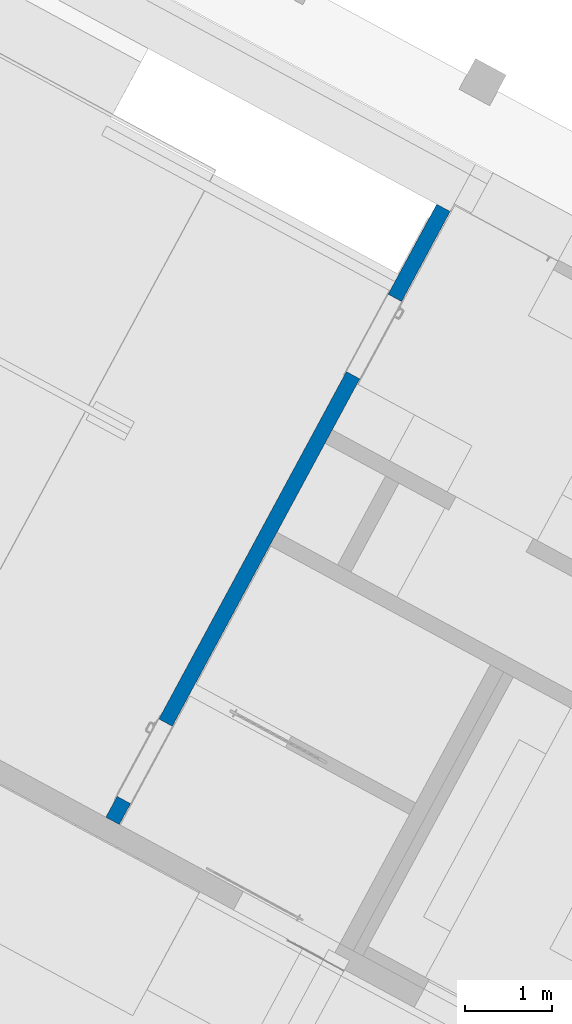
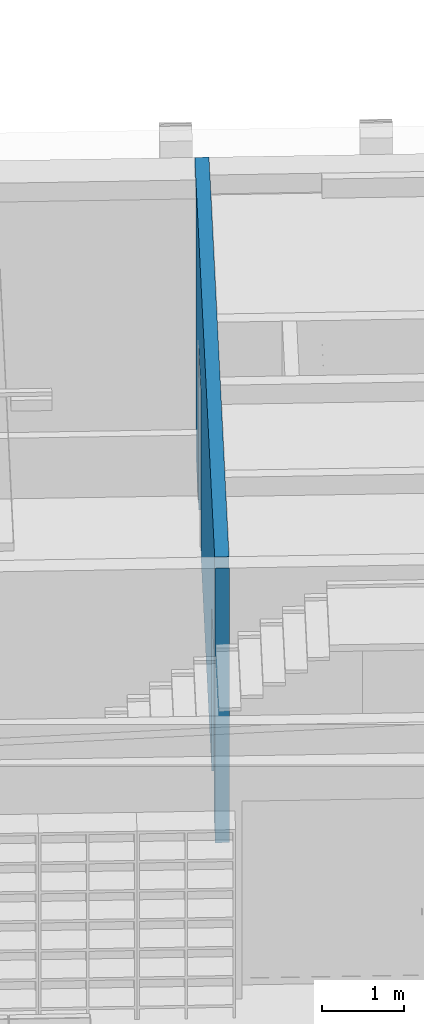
# One storey, part 18 of 52: 1 wall, 2 openings.
"""IFC2X3 building model written with IfcOpenShell, lengths in metres."""

import ifcopenshell
import ifcopenshell.guid

model = None  # the IFC model being written
_history = None  # IfcOwnerHistory: only IFC2X3 demands one
_inside = {}  # id of a spatial element -> (the spatial element, [elements in it])
_under = {}  # id of a project, library or spatial element -> (it, [spatial elements below it])
_declared = {}  # id of a project -> (the project, [libraries it declares])
_typed = {}  # id of a type object -> (the type object, [elements of that type])
_made_of = {}  # id of a material, layer set ... -> (it, [elements and type objects made of it])


def new_model(schema):
    """Start an empty IFC model of exactly this schema.

    Asked for "IFC4X3", IfcOpenShell would pick the latest addendum, in which some entities
    have other attributes; the version numbers below select the first issue.
    IFC2X3 requires an IfcOwnerHistory on every rooted entity: one is made here for all.
    """
    global model, _history
    if schema == "IFC4X3":
        model = ifcopenshell.file(schema_version=(4, 3, 0, 0))
    else:
        model = ifcopenshell.file(schema=schema)
    _inside.clear()
    _under.clear()
    _declared.clear()
    _typed.clear()
    _made_of.clear()
    _history = None
    if model.schema == "IFC2X3":
        org = make("IfcOrganization", Name="unknown")
        user = make(
            "IfcPersonAndOrganization",
            ThePerson=make("IfcPerson", FamilyName="unknown"),
            TheOrganization=org,
        )
        app = make(
            "IfcApplication",
            ApplicationDeveloper=org,
            Version="unknown",
            ApplicationFullName="unknown",
            ApplicationIdentifier="unknown",
        )
        _history = make(
            "IfcOwnerHistory",
            OwningUser=user,
            OwningApplication=app,
            ChangeAction="ADDED",
            CreationDate=0,
        )
    return model


def make(cls, **values):
    """One entity of the class cls with the attributes given. An attribute that is None is left unset."""
    return model.create_entity(
        cls, **{name: value for name, value in values.items() if value is not None}
    )


def entity(cls, *values):
    """Any entity or typed value of the class cls, its attributes in the order of the schema. None: left unset."""
    e = model.create_entity(cls)
    for i, value in enumerate(values):
        if value is not None:
            e[i] = value
    return e


def rooted(cls, **values):
    """An entity with a GlobalId (a new one), such as an element, a storey or a relation."""
    return make(cls, GlobalId=ifcopenshell.guid.new(), OwnerHistory=_history, **values)


def si_unit(unit_type, name, prefix=None):
    """IfcSIUnit, for example si_unit("LENGTHUNIT", "METRE", prefix="MILLI")."""
    return make("IfcSIUnit", UnitType=unit_type, Prefix=prefix, Name=name)


def converted_unit(unit_type, name, factor, base, dimensions=None, offset=None):
    """IfcConversionBasedUnit, such as the inch: factor (a typed value) times the base unit."""
    return make(
        "IfcConversionBasedUnit"
        if offset is None
        else "IfcConversionBasedUnitWithOffset",
        ConversionOffset=offset,
        Dimensions=None
        if dimensions is None
        else entity("IfcDimensionalExponents", *dimensions),
        UnitType=unit_type,
        Name=name,
        ConversionFactor=make(
            "IfcMeasureWithUnit", ValueComponent=factor, UnitComponent=base
        ),
    )


def derived_unit(unit_type, elements):
    """IfcDerivedUnit: a product of units, each with its exponent."""
    return make(
        "IfcDerivedUnit",
        Elements=[
            make("IfcDerivedUnitElement", Unit=unit, Exponent=power)
            for unit, power in elements
        ],
        UnitType=unit_type,
    )


def money_unit(currency):
    """IfcMonetaryUnit."""
    return make("IfcMonetaryUnit", Currency=currency)


def assignment(units):
    """IfcUnitAssignment: the units of a project."""
    return None if units is None else make("IfcUnitAssignment", Units=units)


def point(xyz):
    """IfcCartesianPoint."""
    return None if xyz is None else make("IfcCartesianPoint", Coordinates=xyz)


def direction(xyz):
    """IfcDirection."""
    return None if xyz is None else make("IfcDirection", DirectionRatios=xyz)


def frame(location, z_axis=None, x_axis=None):
    """IfcAxis2Placement3D, a coordinate frame: its origin and axes. An axis left out is left unset."""
    return make(
        "IfcAxis2Placement3D",
        Location=point(location),
        Axis=direction(z_axis),
        RefDirection=direction(x_axis),
    )


def frame_2d(location, x_axis=None):
    """IfcAxis2Placement2D, a coordinate frame in the plane: its origin and x axis."""
    return make(
        "IfcAxis2Placement2D", Location=point(location), RefDirection=direction(x_axis)
    )


def origin_with_axes():
    """The frame at (0, 0, 0) with the z axis (0, 0, 1) and the x axis (1, 0, 0) written out."""
    return frame((0.0, 0.0, 0.0), z_axis=(0.0, 0.0, 1.0), x_axis=(1.0, 0.0, 0.0))


def origin_2d_with_axis():
    """The frame at (0, 0) in the plane with the x axis (1, 0) written out."""
    return frame_2d((0.0, 0.0), x_axis=(1.0, 0.0))


def place(relative_to, where):
    """IfcLocalPlacement: puts the frame where relative to a parent placement (None: the world)."""
    return make(
        "IfcLocalPlacement", PlacementRelTo=relative_to, RelativePlacement=where
    )


def context(
    kind, dimensions, precision=None, world=None, true_north=None, identifier=None
):
    """IfcGeometricRepresentationContext, for example the 3D "Model" context."""
    return make(
        "IfcGeometricRepresentationContext",
        ContextIdentifier=identifier,
        ContextType=kind,
        CoordinateSpaceDimension=dimensions,
        Precision=precision,
        WorldCoordinateSystem=world,
        TrueNorth=true_north,
    )


def subcontext(parent, identifier, kind, view, scale=None):
    """IfcGeometricRepresentationSubContext, for example "Body" below "Model"."""
    return make(
        "IfcGeometricRepresentationSubContext",
        ContextIdentifier=identifier,
        ContextType=kind,
        ParentContext=parent,
        TargetScale=scale,
        TargetView=view,
    )


def project(units=None, contexts=None):
    """IfcProject with its units and contexts."""
    return rooted(
        "IfcProject",
        Name="project",
        RepresentationContexts=contexts,
        UnitsInContext=assignment(units),
    )


def spatial(cls, under=None, at=None, **own):
    """A site, building, storey or space (cls), placed at a placement, below another one or the project."""
    s = rooted(cls, ObjectPlacement=at, **own)
    if under is not None:
        _under.setdefault(under.id(), (under, []))[1].append(s)
    return s


def profile(cls, at=None, kind="AREA", **sizes):
    """A parametric profile (cls). Its sizes go by their IFC names, for example OverallWidth=200.0."""
    return make(cls, ProfileType=kind, Position=at, **sizes)


def rectangle(**sizes):
    """IfcRectangleProfileDef."""
    return profile("IfcRectangleProfileDef", **sizes)


def extrude(swept, where, along, depth):
    """IfcExtrudedAreaSolid: the profile swept, set in the frame where, extruded along a direction by depth."""
    return make(
        "IfcExtrudedAreaSolid",
        SweptArea=swept,
        Position=where,
        ExtrudedDirection=direction(along),
        Depth=depth,
    )


def faces_of(points, faces, orient=None, outer=None):
    """IfcFace entities. A face is a list of loops; a loop is a list of indices into points, from 0.

    orient and outer hold one flag for each loop. By default every Orientation is true, the
    first loop of a face is its IfcFaceOuterBound and the others are IfcFaceBound.
    """
    made = []
    for i, loops in enumerate(faces):
        bounds = []
        for j, loop in enumerate(loops):
            is_outer = j == 0 if outer is None else outer[i][j]
            bounds.append(
                make(
                    "IfcFaceOuterBound" if is_outer else "IfcFaceBound",
                    Bound=make("IfcPolyLoop", Polygon=[points[k] for k in loop]),
                    Orientation=True if orient is None else orient[i][j],
                )
            )
        made.append(make("IfcFace", Bounds=bounds))
    return made


def faceted_brep(points, faces, orient=None, outer=None, voids=None):
    """IfcFacetedBrep: a solid bounded by flat faces; with voids (closed shells), ...WithVoids."""
    shared = [point(p) for p in points]
    hull = make("IfcClosedShell", CfsFaces=faces_of(shared, faces, orient, outer))
    if voids is None:
        return make("IfcFacetedBrep", Outer=hull)
    return make(
        "IfcFacetedBrepWithVoids",
        Outer=hull,
        Voids=[
            make(cls, CfsFaces=faces_of(shared, fs, o, b)) for cls, fs, o, b in voids
        ],
    )


def shape(context_of_items, identifier, shape_type, items):
    """IfcShapeRepresentation: the items that make up one representation, for example the "Body"."""
    return make(
        "IfcShapeRepresentation",
        ContextOfItems=context_of_items,
        RepresentationIdentifier=identifier,
        RepresentationType=shape_type,
        Items=items,
    )


def material(Name=None, Category=None):
    """IfcMaterial."""
    return make("IfcMaterial", Name=Name, Category=Category)


def made_of(thing, what):
    """Note that an element or type object is made of a material, layer set ...; save() writes the relation."""
    if what is not None:
        _made_of.setdefault(what.id(), (what, []))[1].append(thing)
    return thing


def type_object(cls, material=None, **own):
    """A type object (cls), such as IfcWallType, which elements share."""
    return made_of(rooted(cls, **own), material)


def element(
    cls,
    number,
    at=None,
    inside=None,
    cuts=None,
    type_object=None,
    material=None,
    context=None,
    identifier="Body",
    shape_type=None,
    held_by="IfcProductDefinitionShape",
    body=None,
    shapes=None,
    **own,
):
    """One element of the class cls, such as IfcWall. Its Tag is "e" and its number.

    at: its placement. inside: the storey or other place that contains it. cuts: it is an
    opening in that element (IfcRelVoidsElement). A single representation is given by context,
    identifier, shape_type and body (its items); several are given by shapes. held_by: the class
    of the entity that holds the representations. save() writes the other relations.
    """
    e = rooted(cls, Tag="e%d" % number, ObjectPlacement=at, **own)
    if body is not None:
        shapes = [shape(context, identifier, shape_type, body)]
    if shapes is not None:
        e.Representation = make(held_by, Representations=shapes)
    if inside is not None:
        _inside.setdefault(inside.id(), (inside, []))[1].append(e)
    if cuts is not None:
        rooted(
            "IfcRelVoidsElement", RelatingBuildingElement=cuts, RelatedOpeningElement=e
        )
    if type_object is not None:
        _typed.setdefault(type_object.id(), (type_object, []))[1].append(e)
    return made_of(e, material)


def aggregate(whole, parts):
    """IfcRelAggregates: a whole, such as a stair, and the parts it consists of."""
    return rooted("IfcRelAggregates", RelatingObject=whole, RelatedObjects=parts)


def save(model, path):
    """Write the relations noted so far, then the file.

    IfcRelAggregates (storeys below a building ...), IfcRelContainedInSpatialStructure (elements
    in a storey), IfcRelDefinesByType, IfcRelAssociatesMaterial and IfcRelDeclares: one each for
    every whole, place, type object, material and project.
    """
    for whole, parts in _under.values():
        aggregate(whole, parts)
    for where, things in _inside.values():
        rooted(
            "IfcRelContainedInSpatialStructure",
            RelatedElements=things,
            RelatingStructure=where,
        )
    for kind, things in _typed.values():
        rooted("IfcRelDefinesByType", RelatedObjects=things, RelatingType=kind)
    for what, things in _made_of.values():
        rooted("IfcRelAssociatesMaterial", RelatedObjects=things, RelatingMaterial=what)
    for by, libraries in _declared.values():
        rooted("IfcRelDeclares", RelatingContext=by, RelatedDefinitions=libraries)
    model.write(path)


model = new_model("IFC2X3")

# Units and contexts
model_context = context("Model", 3, precision=1e-05, world=origin_with_axes(), true_north=direction((0.0, 1.0)))
body_context = subcontext(model_context, "Body", "Model", "MODEL_VIEW")
ifc_project = project(units=[si_unit("LENGTHUNIT", "METRE"), si_unit("AREAUNIT", "SQUARE_METRE"), si_unit("VOLUMEUNIT", "CUBIC_METRE"), converted_unit("PLANEANGLEUNIT", "DEGREE", entity("IfcPlaneAngleMeasure", 0.0174532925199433), si_unit("PLANEANGLEUNIT", "RADIAN"), dimensions=[0, 0, 0, 0, 0, 0, 0]), money_unit("EUR"), converted_unit("TIMEUNIT", "Year", entity("IfcTimeMeasure", 31556926.0), si_unit("TIMEUNIT", "SECOND"), dimensions=[0, 0, 1, 0, 0, 0, 0]), si_unit("MASSUNIT", "GRAM", prefix="KILO"), si_unit("THERMODYNAMICTEMPERATUREUNIT", "DEGREE_CELSIUS"), si_unit("LUMINOUSINTENSITYUNIT", "LUMEN"), si_unit("ENERGYUNIT", "JOULE", prefix="MEGA"), derived_unit("THERMALCONDUCTANCEUNIT", [(si_unit("POWERUNIT", "WATT"), 1), (si_unit("LENGTHUNIT", "METRE"), -1), (si_unit("THERMODYNAMICTEMPERATUREUNIT", "KELVIN"), -1)]), derived_unit("SPECIFICHEATCAPACITYUNIT", [(si_unit("ENERGYUNIT", "JOULE"), 1), (si_unit("MASSUNIT", "GRAM", prefix="KILO"), -1), (si_unit("THERMODYNAMICTEMPERATUREUNIT", "KELVIN"), -1)]), derived_unit("MASSDENSITYUNIT", [(si_unit("MASSUNIT", "GRAM", prefix="KILO"), 1), (si_unit("VOLUMEUNIT", "CUBIC_METRE"), -1)])], contexts=[model_context])

# Site, building, storey
site_placement = place(None, frame((-3.949935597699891, 1.740105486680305, 0.0), z_axis=(0.0, 0.0, 1.0), x_axis=(0.8799804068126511, -0.475009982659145, 0.0)))
site = spatial("IfcSite", under=ifc_project, at=site_placement, Name="Gelände", CompositionType="ELEMENT")
building_placement = place(site_placement, origin_with_axes())
building = spatial("IfcBuilding", under=site, at=building_placement, Name="Gebäude", CompositionType="ELEMENT")
storey_placement = place(building_placement, origin_with_axes())
storey = spatial("IfcBuildingStorey", under=building, at=storey_placement, Name="Erdgeschoss", CompositionType="ELEMENT", Elevation=0.0)

# Wall, openings
ifc_material = material(Name="_SIWH - MW Kalksandstein")
wall_type = type_object("IfcWallType", Name="_SIWH - WI | KS 17,5 | 17,5cm 175", PredefinedType="NOTDEFINED")
wall_placement = place(storey_placement, frame((10.53739368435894, 19.20029480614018, -0.18), z_axis=(0.0, 0.0, 1.0), x_axis=(4.404635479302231e-06, -0.9999999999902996, 0.0)))
wall = element("IfcWall", 1, at=wall_placement, inside=storey, type_object=wall_type, material=ifc_material, Name="I-Wand001", context=body_context, shape_type="Brep", body=[
    faceted_brep([(2.484993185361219, 0.0, 0.18), (2.484993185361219, 0.0, 2.44), (1.474993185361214, 0.0, 2.44), (1.474993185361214, 0.0, 0.18), (1.47499318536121, 0.0, 0.0), (0.300000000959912, 0.0, 0.0), (0.300000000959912, 0.0, 3.800000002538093), (0.2000000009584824, 0.0, 3.800000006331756), (0.2000000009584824, 0.0, 4.080000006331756), (8.302472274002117, 0.0, 4.080000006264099), (8.302472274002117, 0.0, 0.0), (8.029937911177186, 0.0, 0.0), (8.02993791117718, 0.0, 0.18), (8.02993791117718, 0.0, 2.44), (7.019937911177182, 0.0, 2.44), (7.019937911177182, 0.0, 0.18), (7.019937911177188, 0.0, 0.0), (2.484993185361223, 0.0, 0.0), (2.484993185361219, -0.1749999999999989, 0.18), (2.484993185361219, -0.1750000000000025, 2.44), (1.474993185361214, -0.1750000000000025, 2.44), (1.474993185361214, -0.1749999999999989, 0.18), (1.47499318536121, -0.1749999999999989, 0.0), (0.2999990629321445, -0.1749999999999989, 0.0), (0.2999990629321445, -0.1749999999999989, 3.800000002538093), (-0.3150000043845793, -0.0009954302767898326, 3.800000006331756), (0.199999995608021, -0.0009981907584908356, 3.800000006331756), (-0.3150009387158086, -0.1749999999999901, 3.800000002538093), (0.199999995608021, -0.0009981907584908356, 4.080000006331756), (-0.1800000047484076, -0.0009961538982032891, 4.080000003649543), (-0.1800009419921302, -0.1750000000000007, 4.080000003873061), (8.30247227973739, -0.1749999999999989, 4.080000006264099), (8.30247227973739, -0.1749999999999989, 0.0), (8.029937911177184, -0.1750000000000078, 0.0), (8.029937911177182, -0.1749999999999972, 0.18), (8.029937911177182, -0.1750000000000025, 2.44), (7.019937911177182, -0.1750000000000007, 2.44), (7.019937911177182, -0.1750000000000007, 0.18), (7.019937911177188, -0.1749999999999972, 0.0), (2.484993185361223, -0.1749999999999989, 0.0), (-0.1800009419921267, -0.1750000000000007, 3.88000000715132), (-0.3150009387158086, -0.1749999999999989, 3.88000000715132), (-0.3150000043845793, -0.0009954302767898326, 3.880000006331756), (-0.1800000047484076, -0.0009961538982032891, 3.880000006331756)], [[[0, 1, 2, 3, 4, 5, 6, 7, 8, 9, 10, 11, 12, 13, 14, 15, 16, 17]], [[1, 0, 18, 19]], [[2, 1, 19, 20]], [[3, 2, 20, 21]], [[3, 21, 22, 4]], [[22, 23, 5, 4]], [[6, 5, 23, 24]], [[25, 26, 7, 6, 24, 27]], [[28, 8, 7, 26]], [[9, 8, 28, 29, 30, 31]], [[10, 9, 31, 32]], [[11, 10, 32, 33]], [[12, 11, 33, 34]], [[12, 34, 35, 13]], [[13, 35, 36, 14]], [[14, 36, 37, 15]], [[37, 38, 16, 15]], [[38, 39, 17, 16]], [[18, 0, 17, 39]], [[19, 18, 39, 38, 37, 36, 35, 34, 33, 32, 31, 30, 40, 41, 27, 24, 23, 22, 21, 20]], [[28, 26, 25, 42, 43, 29]], [[42, 25, 27, 41]], [[29, 43, 40, 30]], [[43, 42, 41, 40]]]),
    faceted_brep([(8.542472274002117, 0.0, 0.0), (8.542472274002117, 0.0, 4.08000000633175), (8.542494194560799, 0.0, 4.080000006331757), (8.542494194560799, 0.0, 0.0), (8.54247227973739, -0.1749999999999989, 4.08000000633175), (8.54247227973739, -0.1749999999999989, 0.0), (8.542494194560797, -0.1749999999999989, 4.080000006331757), (8.542494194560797, -0.1749999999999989, 0.0)], [[[0, 1, 2, 3]], [[4, 1, 0, 5]], [[1, 4, 6, 2]], [[3, 2, 6, 7]], [[5, 0, 3, 7]], [[4, 5, 7, 6]]]),
])
opening_1_placement = place(wall_placement, frame((7.52493791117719, 0.0, 0.18), z_axis=(0.0, 0.0, 1.0), x_axis=(1.0, 0.0, 0.0)))
element("IfcOpeningElement", 2, at=opening_1_placement, cuts=wall, Name="Tür-017", context=body_context, shape_type="SweptSolid", body=[
    extrude(rectangle(XDim=1.009999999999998, YDim=2.26, at=origin_2d_with_axis()), frame((0.0, -0.1749999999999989, 1.13), z_axis=(0.0, -1.0, 0.0), x_axis=(1.0, 0.0, 0.0)), (0.0, 0.0, -1.0), 0.5249999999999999),
])
opening_2_placement = place(wall_placement, frame((1.979993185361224, 0.0, 0.18), z_axis=(0.0, 0.0, 1.0), x_axis=(1.0, 0.0, 0.0)))
element("IfcOpeningElement", 3, at=opening_2_placement, cuts=wall, Name="Tür-017", context=body_context, shape_type="SweptSolid", body=[
    extrude(rectangle(XDim=1.010000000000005, YDim=2.26, at=origin_2d_with_axis()), frame((0.0, 0.1750000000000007, 1.13), z_axis=(0.0, -1.0, 0.0), x_axis=(1.0, 0.0, 0.0)), (0.0, 0.0, 1.0), 0.5249999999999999),
])

save(model, "model.ifc")
